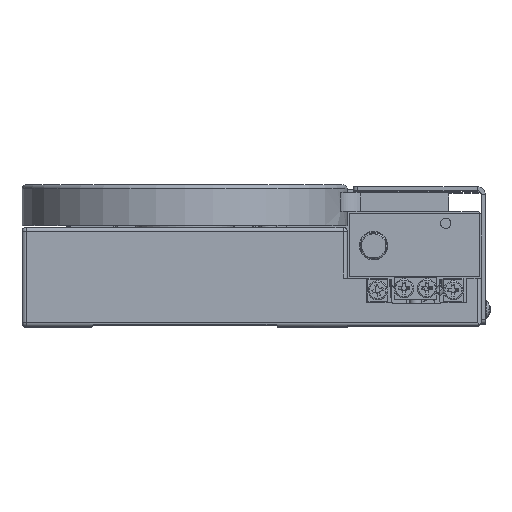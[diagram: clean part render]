
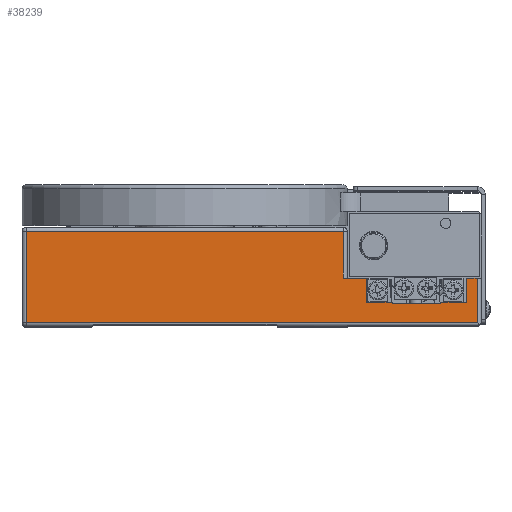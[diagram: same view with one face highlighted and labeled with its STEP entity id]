
A CAD part, top view. The second image highlights one B-rep face of the part: STEP entity #38239.
In plain terms, the highlighted planar face has unit normal (0, 0, 1).
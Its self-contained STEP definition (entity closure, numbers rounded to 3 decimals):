
#374 = VECTOR ( 'NONE', #11108, 1000. ) ;
#1340 = CARTESIAN_POINT ( 'NONE',  ( 72., -0.25, 40. ) ) ;
#2749 = LINE ( 'NONE', #38401, #60773 ) ;
#2751 = LINE ( 'NONE', #10425, #60774 ) ;
#3096 = CARTESIAN_POINT ( 'NONE',  ( 73., -0.25, 40. ) ) ;
#3172 = EDGE_CURVE ( 'NONE', #72591, #37884, #39464, .T. ) ;
#3846 = CARTESIAN_POINT ( 'NONE',  ( 72., -0.25, 40. ) ) ;
#4107 = CARTESIAN_POINT ( 'NONE',  ( 63.05, -6.55, 40. ) ) ;
#5643 = EDGE_CURVE ( 'NONE', #38702, #12614, #37418, .T. ) ;
#7030 = EDGE_CURVE ( 'NONE', #50552, #39405, #49538, .T. ) ;
#8126 = VECTOR ( 'NONE', #72228, 1000. ) ;
#8198 = CARTESIAN_POINT ( 'NONE',  ( -40., 11.25, 40. ) ) ;
#9516 = EDGE_CURVE ( 'NONE', #54182, #43606, #2749, .T. ) ;
#9866 = EDGE_CURVE ( 'NONE', #39405, #54182, #13248, .T. ) ;
#10082 = EDGE_CURVE ( 'NONE', #37884, #56517, #22910, .T. ) ;
#10425 = CARTESIAN_POINT ( 'NONE',  ( 69.3, -0.25, 40. ) ) ;
#10975 = FACE_OUTER_BOUND ( 'NONE', #19279, .T. ) ;
#11108 = DIRECTION ( 'NONE',  ( -1., 0., 0. ) ) ;
#12218 = PLANE ( 'NONE',  #69370 ) ;
#12614 = VERTEX_POINT ( 'NONE', #31204 ) ;
#13095 = ORIENTED_EDGE ( 'NONE', *, *, #7030, .T. ) ;
#13248 = LINE ( 'NONE', #55277, #43142 ) ;
#15935 = CARTESIAN_POINT ( 'NONE',  ( 63.05, -6.25, 40. ) ) ;
#16052 = DIRECTION ( 'NONE',  ( 1., 0., 0. ) ) ;
#16963 = DIRECTION ( 'NONE',  ( 0., 1., 0. ) ) ;
#18625 = CARTESIAN_POINT ( 'NONE',  ( -39., -11.25, 40. ) ) ;
#18978 = CARTESIAN_POINT ( 'NONE',  ( 39., 12.25, 40. ) ) ;
#19279 = EDGE_LOOP ( 'NONE', ( #68030, #39915, #39271, #51820, #21318, #34822, #66814, #71043, #28684, #64138, #50299, #66479, #13095, #23141 ) ) ;
#19385 = EDGE_CURVE ( 'NONE', #12614, #34489, #69740, .T. ) ;
#20714 = CARTESIAN_POINT ( 'NONE',  ( 69.3, -0.25, 40. ) ) ;
#21318 = ORIENTED_EDGE ( 'NONE', *, *, #5643, .T. ) ;
#21629 = DIRECTION ( 'NONE',  ( 0., -1., 0. ) ) ;
#22263 = DIRECTION ( 'NONE',  ( -1., 0., 0. ) ) ;
#22470 = VECTOR ( 'NONE', #22263, 1000. ) ;
#22910 = LINE ( 'NONE', #62593, #49284 ) ;
#23086 = VECTOR ( 'NONE', #37830, 1000. ) ;
#23141 = ORIENTED_EDGE ( 'NONE', *, *, #9866, .T. ) ;
#23514 = DIRECTION ( 'NONE',  ( -1., 0., 0. ) ) ;
#24603 = DIRECTION ( 'NONE',  ( 0., 1., 0. ) ) ;
#24756 = LINE ( 'NONE', #61912, #67808 ) ;
#24859 = LINE ( 'NONE', #1340, #38042 ) ;
#25314 = CARTESIAN_POINT ( 'NONE',  ( 44.8, -0.25, 40. ) ) ;
#26291 = CARTESIAN_POINT ( 'NONE',  ( 73., -0.25, 40. ) ) ;
#26827 = VECTOR ( 'NONE', #42400, 1000. ) ;
#28023 = LINE ( 'NONE', #18978, #56105 ) ;
#28684 = ORIENTED_EDGE ( 'NONE', *, *, #10082, .T. ) ;
#29859 = VERTEX_POINT ( 'NONE', #20714 ) ;
#31204 = CARTESIAN_POINT ( 'NONE',  ( 63.05, -6.25, 40. ) ) ;
#31620 = CARTESIAN_POINT ( 'NONE',  ( 72., -11.25, 40. ) ) ;
#34410 = EDGE_CURVE ( 'NONE', #37850, #51710, #64370, .T. ) ;
#34489 = VERTEX_POINT ( 'NONE', #60912 ) ;
#34609 = VECTOR ( 'NONE', #41897, 1000. ) ;
#34822 = ORIENTED_EDGE ( 'NONE', *, *, #19385, .T. ) ;
#36215 = EDGE_CURVE ( 'NONE', #51710, #50552, #28023, .T. ) ;
#36840 = CARTESIAN_POINT ( 'NONE',  ( 51.05, -6.25, 40. ) ) ;
#37418 = LINE ( 'NONE', #61574, #22470 ) ;
#37830 = DIRECTION ( 'NONE',  ( -1., 0., 0. ) ) ;
#37850 = VERTEX_POINT ( 'NONE', #25314 ) ;
#37884 = VERTEX_POINT ( 'NONE', #36840 ) ;
#38042 = VECTOR ( 'NONE', #46241, 1000. ) ;
#38239 = ADVANCED_FACE ( 'NONE', ( #10975 ), #12218, .F. ) ;
#38401 = CARTESIAN_POINT ( 'NONE',  ( 40., -11.25, 40. ) ) ;
#38579 = CARTESIAN_POINT ( 'NONE',  ( 39., 11.25, 40. ) ) ;
#38702 = VERTEX_POINT ( 'NONE', #60986 ) ;
#39271 = ORIENTED_EDGE ( 'NONE', *, *, #62261, .T. ) ;
#39362 = CARTESIAN_POINT ( 'NONE',  ( 51.05, -6.25, 40. ) ) ;
#39405 = VERTEX_POINT ( 'NONE', #56688 ) ;
#39464 = LINE ( 'NONE', #39362, #41222 ) ;
#39676 = VERTEX_POINT ( 'NONE', #3846 ) ;
#39915 = ORIENTED_EDGE ( 'NONE', *, *, #45989, .T. ) ;
#40598 = CARTESIAN_POINT ( 'NONE',  ( 51.05, -6.55, 40. ) ) ;
#40880 = EDGE_CURVE ( 'NONE', #29859, #38702, #2751, .T. ) ;
#41222 = VECTOR ( 'NONE', #50404, 1000. ) ;
#41897 = DIRECTION ( 'NONE',  ( -1., 0., 0. ) ) ;
#42400 = DIRECTION ( 'NONE',  ( -1., 0., 0. ) ) ;
#43142 = VECTOR ( 'NONE', #21629, 1000. ) ;
#43606 = VERTEX_POINT ( 'NONE', #31620 ) ;
#45989 = EDGE_CURVE ( 'NONE', #43606, #39676, #24859, .T. ) ;
#46241 = DIRECTION ( 'NONE',  ( 0., 1., 0. ) ) ;
#48707 = LINE ( 'NONE', #4107, #374 ) ;
#49284 = VECTOR ( 'NONE', #51282, 1000. ) ;
#49538 = LINE ( 'NONE', #8198, #34609 ) ;
#49564 = CARTESIAN_POINT ( 'NONE',  ( 44.8, -6.25, 40. ) ) ;
#49737 = DIRECTION ( 'NONE',  ( 0., -1., 0. ) ) ;
#50299 = ORIENTED_EDGE ( 'NONE', *, *, #34410, .T. ) ;
#50404 = DIRECTION ( 'NONE',  ( 0., 1., 0. ) ) ;
#50552 = VERTEX_POINT ( 'NONE', #38579 ) ;
#51282 = DIRECTION ( 'NONE',  ( -1., 0., 0. ) ) ;
#51516 = CARTESIAN_POINT ( 'NONE',  ( 40., 12.25, 40. ) ) ;
#51710 = VERTEX_POINT ( 'NONE', #62198 ) ;
#51820 = ORIENTED_EDGE ( 'NONE', *, *, #40880, .T. ) ;
#54182 = VERTEX_POINT ( 'NONE', #18625 ) ;
#55277 = CARTESIAN_POINT ( 'NONE',  ( -39., 12.25, 40. ) ) ;
#56105 = VECTOR ( 'NONE', #24603, 1000. ) ;
#56517 = VERTEX_POINT ( 'NONE', #49564 ) ;
#56665 = LINE ( 'NONE', #3096, #26827 ) ;
#56688 = CARTESIAN_POINT ( 'NONE',  ( -39., 11.25, 40. ) ) ;
#57168 = DIRECTION ( 'NONE',  ( 0., 0., -1. ) ) ;
#60773 = VECTOR ( 'NONE', #16052, 1000. ) ;
#60774 = VECTOR ( 'NONE', #49737, 1000. ) ;
#60912 = CARTESIAN_POINT ( 'NONE',  ( 63.05, -6.55, 40. ) ) ;
#60986 = CARTESIAN_POINT ( 'NONE',  ( 69.3, -6.25, 40. ) ) ;
#61574 = CARTESIAN_POINT ( 'NONE',  ( 69.3, -6.25, 40. ) ) ;
#61912 = CARTESIAN_POINT ( 'NONE',  ( 44.8, -0.25, 40. ) ) ;
#62198 = CARTESIAN_POINT ( 'NONE',  ( 39., -0.25, 40. ) ) ;
#62261 = EDGE_CURVE ( 'NONE', #39676, #29859, #56665, .T. ) ;
#62593 = CARTESIAN_POINT ( 'NONE',  ( 69.3, -6.25, 40. ) ) ;
#64138 = ORIENTED_EDGE ( 'NONE', *, *, #64271, .T. ) ;
#64271 = EDGE_CURVE ( 'NONE', #56517, #37850, #24756, .T. ) ;
#64370 = LINE ( 'NONE', #26291, #23086 ) ;
#66479 = ORIENTED_EDGE ( 'NONE', *, *, #36215, .T. ) ;
#66814 = ORIENTED_EDGE ( 'NONE', *, *, #71048, .T. ) ;
#67808 = VECTOR ( 'NONE', #16963, 1000. ) ;
#68030 = ORIENTED_EDGE ( 'NONE', *, *, #9516, .T. ) ;
#69370 = AXIS2_PLACEMENT_3D ( 'NONE', #51516, #57168, #23514 ) ;
#69740 = LINE ( 'NONE', #15935, #8126 ) ;
#71043 = ORIENTED_EDGE ( 'NONE', *, *, #3172, .T. ) ;
#71048 = EDGE_CURVE ( 'NONE', #34489, #72591, #48707, .T. ) ;
#72228 = DIRECTION ( 'NONE',  ( 0., -1., 0. ) ) ;
#72591 = VERTEX_POINT ( 'NONE', #40598 ) ;
